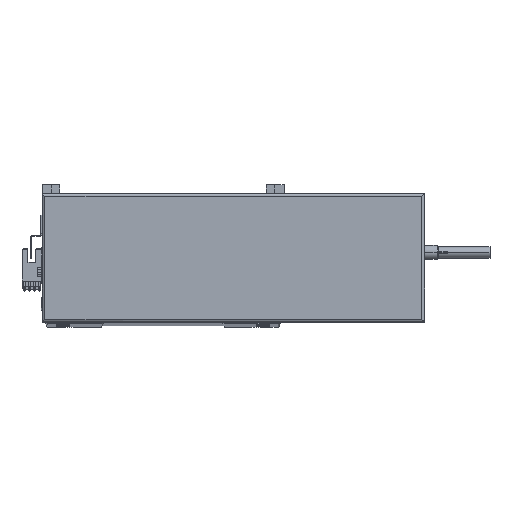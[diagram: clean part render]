
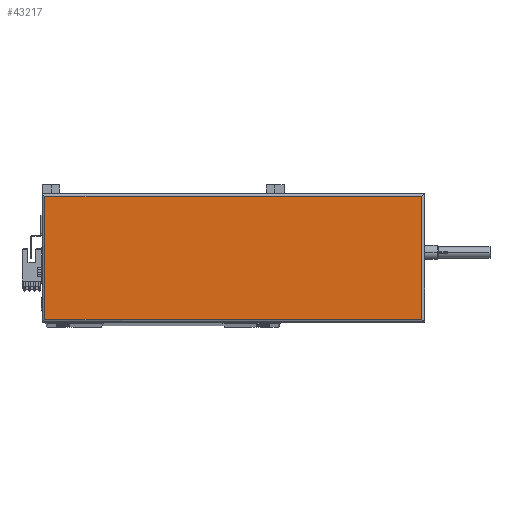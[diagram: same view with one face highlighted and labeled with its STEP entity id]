
A CAD part, top view. The second image highlights one B-rep face of the part: STEP entity #43217.
In plain terms, the highlighted planar face has unit normal (0, 0, 1).
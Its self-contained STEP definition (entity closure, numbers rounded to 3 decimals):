
#205 = CARTESIAN_POINT ( 'NONE',  ( 0., 88., 44.8 ) ) ;
#2556 = CARTESIAN_POINT ( 'NONE',  ( 2., 88., 44.8 ) ) ;
#2976 = VECTOR ( 'NONE', #28666, 1000. ) ;
#3513 = DIRECTION ( 'NONE',  ( 1., 0., 0. ) ) ;
#3690 = DIRECTION ( 'NONE',  ( 0., 0., 1. ) ) ;
#4358 = DIRECTION ( 'NONE',  ( -1., 0., 0. ) ) ;
#5412 = ORIENTED_EDGE ( 'NONE', *, *, #13479, .T. ) ;
#6381 = LINE ( 'NONE', #14794, #17830 ) ;
#9910 = VECTOR ( 'NONE', #13640, 1000. ) ;
#10162 = VERTEX_POINT ( 'NONE', #2556 ) ;
#12907 = AXIS2_PLACEMENT_3D ( 'NONE', #45246, #3690, #3513 ) ;
#13479 = EDGE_CURVE ( 'NONE', #36926, #50569, #6381, .T. ) ;
#13640 = DIRECTION ( 'NONE',  ( 0., -1., 0. ) ) ;
#14794 = CARTESIAN_POINT ( 'NONE',  ( 267., 2., 44.8 ) ) ;
#17830 = VECTOR ( 'NONE', #48138, 1000. ) ;
#21341 = CARTESIAN_POINT ( 'NONE',  ( 265., 90., 44.8 ) ) ;
#21814 = EDGE_CURVE ( 'NONE', #38175, #10162, #49462, .T. ) ;
#22151 = ORIENTED_EDGE ( 'NONE', *, *, #52880, .T. ) ;
#22766 = CARTESIAN_POINT ( 'NONE',  ( 265., 88., 44.8 ) ) ;
#26065 = LINE ( 'NONE', #21341, #2976 ) ;
#28547 = PLANE ( 'NONE',  #12907 ) ;
#28666 = DIRECTION ( 'NONE',  ( 0., 1., 0. ) ) ;
#32093 = VECTOR ( 'NONE', #4358, 1000. ) ;
#32910 = CARTESIAN_POINT ( 'NONE',  ( 265., 2., 44.8 ) ) ;
#33014 = LINE ( 'NONE', #38381, #9910 ) ;
#34710 = EDGE_LOOP ( 'NONE', ( #40237, #46997, #22151, #5412 ) ) ;
#36926 = VERTEX_POINT ( 'NONE', #49664 ) ;
#37364 = FACE_OUTER_BOUND ( 'NONE', #34710, .T. ) ;
#38175 = VERTEX_POINT ( 'NONE', #22766 ) ;
#38381 = CARTESIAN_POINT ( 'NONE',  ( 2., 0., 44.8 ) ) ;
#40237 = ORIENTED_EDGE ( 'NONE', *, *, #40251, .T. ) ;
#40251 = EDGE_CURVE ( 'NONE', #50569, #38175, #26065, .T. ) ;
#43217 = ADVANCED_FACE ( 'NONE', ( #37364 ), #28547, .T. ) ;
#45246 = CARTESIAN_POINT ( 'NONE',  ( 133.5, 45., 44.8 ) ) ;
#46997 = ORIENTED_EDGE ( 'NONE', *, *, #21814, .T. ) ;
#48138 = DIRECTION ( 'NONE',  ( 1., 0., 0. ) ) ;
#49462 = LINE ( 'NONE', #205, #32093 ) ;
#49664 = CARTESIAN_POINT ( 'NONE',  ( 2., 2., 44.8 ) ) ;
#50569 = VERTEX_POINT ( 'NONE', #32910 ) ;
#52880 = EDGE_CURVE ( 'NONE', #10162, #36926, #33014, .T. ) ;
